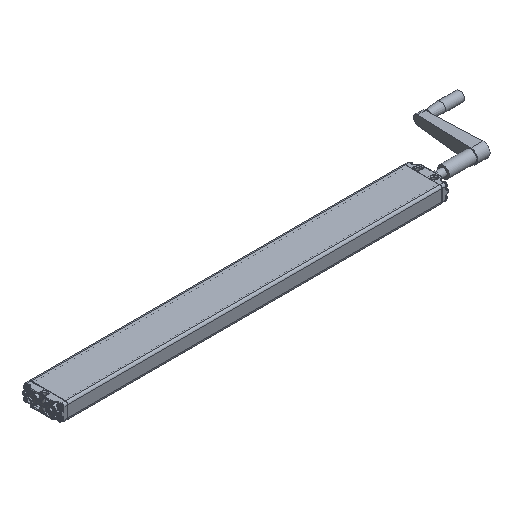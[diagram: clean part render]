
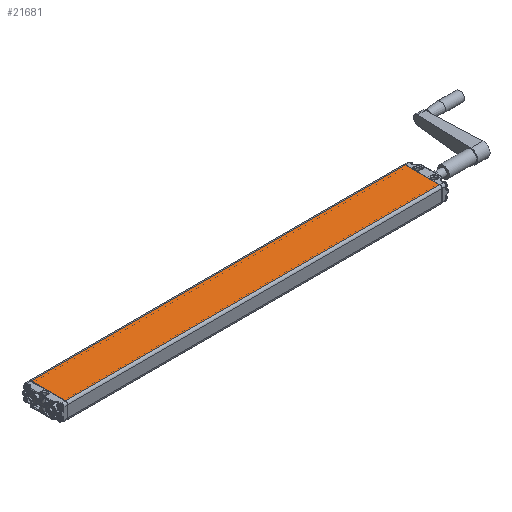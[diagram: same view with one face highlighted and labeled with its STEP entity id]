
A CAD part, isometric view. The second image highlights one B-rep face of the part: STEP entity #21681.
In plain terms, the highlighted planar face has unit normal (0, 0, 1).
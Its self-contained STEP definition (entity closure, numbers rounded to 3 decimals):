
#2630=LINE('',#52466,#3539);
#2631=LINE('',#52469,#3540);
#2632=LINE('',#52471,#3541);
#2633=LINE('',#52473,#3542);
#3539=VECTOR('',#27574,1000.);
#3540=VECTOR('',#27575,1000.);
#3541=VECTOR('',#27576,1000.);
#3542=VECTOR('',#27577,1000.);
#7993=ORIENTED_EDGE('',*,*,#12159,.T.);
#7994=ORIENTED_EDGE('',*,*,#12160,.T.);
#7995=ORIENTED_EDGE('',*,*,#12161,.T.);
#7996=ORIENTED_EDGE('',*,*,#12162,.T.);
#12159=EDGE_CURVE('',#14467,#14468,#2630,.T.);
#12160=EDGE_CURVE('',#14468,#14469,#2631,.F.);
#12161=EDGE_CURVE('',#14469,#14470,#2632,.F.);
#12162=EDGE_CURVE('',#14470,#14467,#2633,.T.);
#14467=VERTEX_POINT('',#52467);
#14468=VERTEX_POINT('',#52468);
#14469=VERTEX_POINT('',#52470);
#14470=VERTEX_POINT('',#52472);
#17024=EDGE_LOOP('',(#7993,#7994,#7995,#7996));
#18611=FACE_BOUND('',#17024,.T.);
#19466=PLANE('',#23554);
#21681=ADVANCED_FACE('',(#18611),#19466,.T.);
#23554=AXIS2_PLACEMENT_3D('',#52465,#27572,#27573);
#27572=DIRECTION('',(0.,0.,1.));
#27573=DIRECTION('',(1.,0.,0.));
#27574=DIRECTION('',(0.,-1.,0.));
#27575=DIRECTION('',(-1.,0.,0.));
#27576=DIRECTION('',(0.,-1.,0.));
#27577=DIRECTION('',(-1.,0.,0.));
#52465=CARTESIAN_POINT('',(42.5,812.5,17.5));
#52466=CARTESIAN_POINT('',(-37.5,812.5,17.5));
#52467=CARTESIAN_POINT('',(-37.5,812.,17.5));
#52468=CARTESIAN_POINT('',(-37.5,0.5,17.5));
#52469=CARTESIAN_POINT('',(37.5,0.5,17.5));
#52470=CARTESIAN_POINT('',(37.5,0.5,17.5));
#52471=CARTESIAN_POINT('',(37.5,812.5,17.5));
#52472=CARTESIAN_POINT('',(37.5,812.,17.5));
#52473=CARTESIAN_POINT('',(42.5,812.,17.5));
